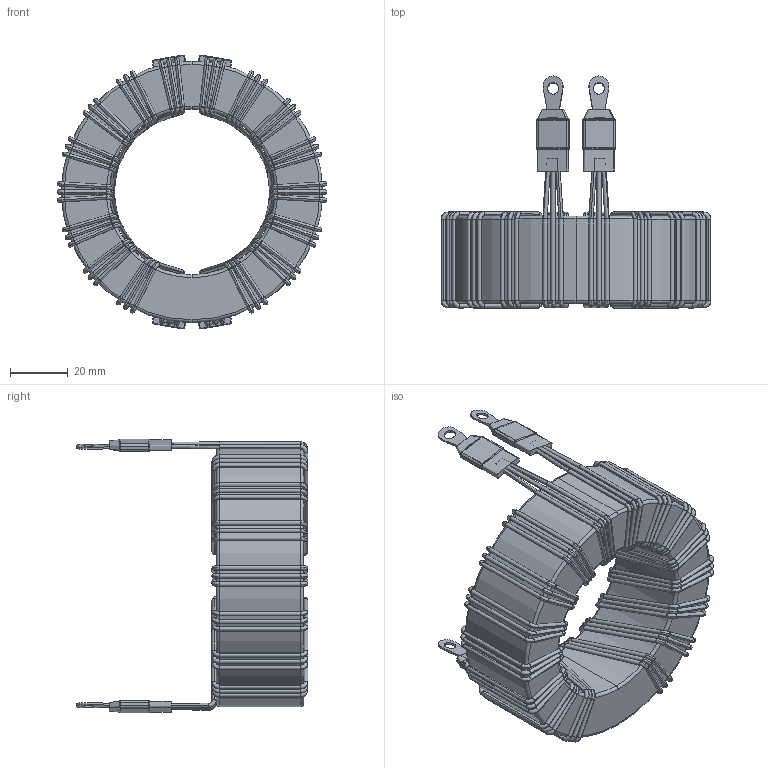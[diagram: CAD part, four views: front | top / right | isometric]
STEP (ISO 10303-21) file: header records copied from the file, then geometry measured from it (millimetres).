
FILE_DESCRIPTION (( 'STEP AP203' ), '1' );
FILE_NAME ('LN-H-602U-100A.STEP', '2020-07-27T14:03:27', ( 'Windows User' ), ( '' ), 'SwSTEP 2.0', 'SolidWorks 2015', '' );
FILE_SCHEMA (( 'CONFIG_CONTROL_DESIGN' ));
Length unit declared in the file: inch
Products named in the file (4): LN-H-602U-100A-connector SINGLE; LN-H-602U-100A - COIL; LN-H-602U-100A; LN-H-602U-100A - CORE
Assembly tree (6 placements, depth 2):
  LN-H-602U-100A
    LN-H-602U-100A - CORE
    LN-H-602U-100A - COIL
    LN-H-602U-100A-connector SINGLE  x4
Bounding box: 93.62 x 80.38 x 95.01 mm (x, y, z)
Volume: 127115.5 mm3; surface area: 50758 mm2
Topology: 119 solids, 119 shells, 1510 faces, 3584 edges, 2308 vertices
Faces by surface type: cylinder 708, torus 444, plane 326, bspline 32
Entity records: 40569 total; most frequent: CARTESIAN_POINT 8179, DIRECTION 7950, ORIENTED_EDGE 6136, AXIS2_PLACEMENT_3D 3634, EDGE_CURVE 3068, CIRCLE 2354, VERTEX_POINT 1996, EDGE_LOOP 1290
